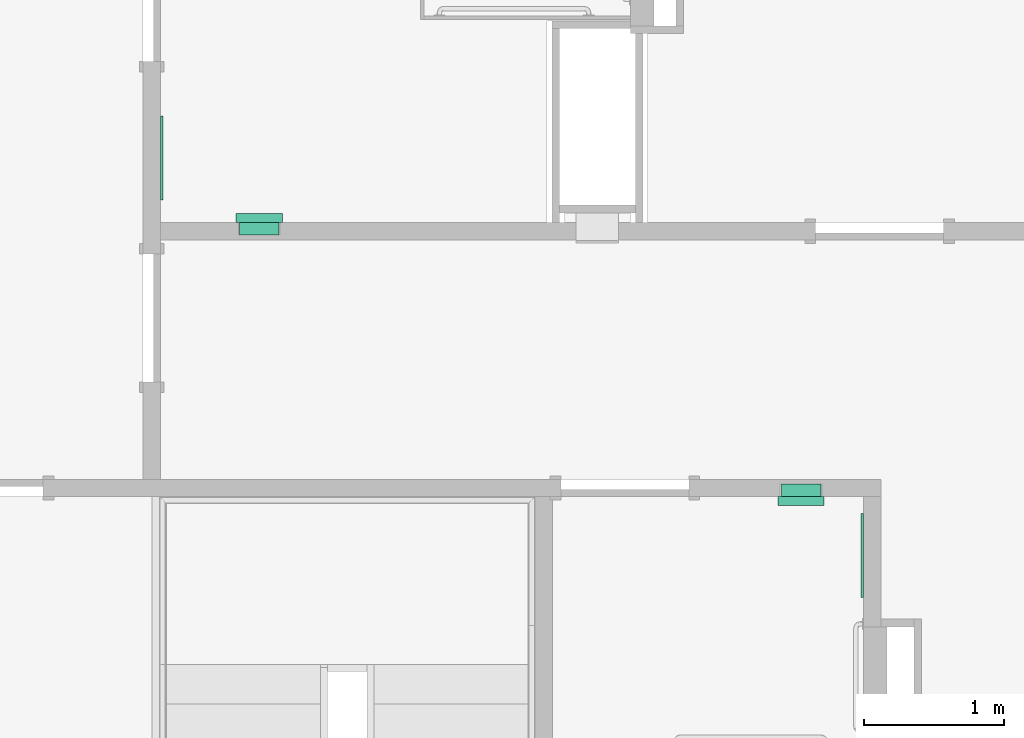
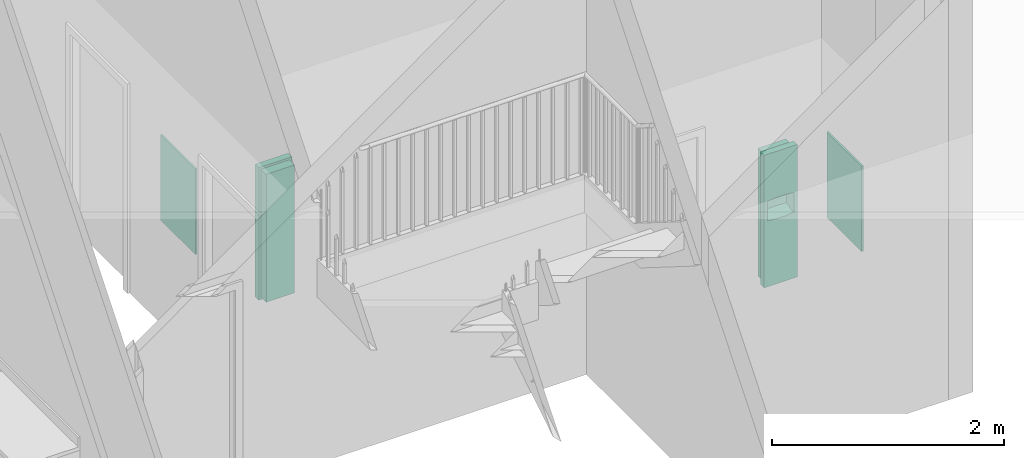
# One storey, part 65 of 87: 4 flow terminals.
"""IFC2X3 building model written with IfcOpenShell, lengths in metres."""

from ifc_helpers import new_model, entity, si_unit, converted_unit, frame, origin, origin_2d_with_axis, place, context, project, spatial, rectangle, extrude, face_set, surface_model, source, transform, mapped, type_object, type_shapes, element, save


model = new_model("IFC2X3")

# Units and contexts
model_context = context("Model", 3, precision=1e-09, world=origin())
plan_context = context("Plan", 3, precision=1e-09, world=origin())
ifc_project = project(units=[si_unit("LENGTHUNIT", "METRE"), si_unit("AREAUNIT", "SQUARE_METRE"), si_unit("VOLUMEUNIT", "CUBIC_METRE"), converted_unit("PLANEANGLEUNIT", "DEGREE", entity("IfcRatioMeasure", 0.01745329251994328), si_unit("PLANEANGLEUNIT", "RADIAN"), dimensions=[0, 0, 0, 0, 0, 0, 0]), si_unit("TIMEUNIT", "SECOND")], contexts=[model_context, plan_context])

# Site, building, storey, space
site_placement = place(None, origin())
site = spatial("IfcSite", under=ifc_project, at=site_placement, Name="Default", CompositionType="ELEMENT")
building_placement = place(site_placement, origin())
building = spatial("IfcBuilding", under=site, at=building_placement, CompositionType="ELEMENT")
storey_placement = place(building_placement, origin())
storey = spatial("IfcBuildingStorey", under=building, at=storey_placement, Name="First Floor", CompositionType="ELEMENT", Elevation=-3.531500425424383e-13)
space_1_placement = place(storey_placement, origin())
space_1 = spatial("IfcSpace", under=storey, at=space_1_placement, Name="1A12", CompositionType="ELEMENT", InteriorOrExteriorSpace="INTERNAL")

# Flow terminal
sanitary_terminal_type_1 = type_object("IfcSanitaryTerminalType", Name="Mirror 600mm x 900mm", PredefinedType="NOTDEFINED")
shared_shape_1 = source(origin(), model_context, "Body", "SweptSolid", [
    extrude(rectangle(XDim=0.01905, YDim=0.5999999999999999, at=origin_2d_with_axis()), frame((0.02447030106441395, 0.071525, 1.0), z_axis=(0.0, 0.0, 1.0), x_axis=(0.0, -1.0, 0.0)), (0.0, 0.0, 1.0), 0.8999999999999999),
])
type_shapes(sanitary_terminal_type_1, [shared_shape_1])
flow_terminal_1_placement = place(space_1_placement, frame((-18.0580000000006, 44.59847030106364, -0.08500000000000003), z_axis=(0.0, 0.0, 1.0), x_axis=(0.0, -1.0, 0.0)))
element("IfcFlowTerminal", 1, at=flow_terminal_1_placement, inside=space_1, type_object=sanitary_terminal_type_1, Name="M_Mirror:Mirror 600mm x 900mm:Mirror 600mm x 900mm", ObjectType="Mirror 600mm x 900mm", context=model_context, shape_type="MappedRepresentation", body=[
    mapped(shared_shape_1, transform((0.0, 0.0, 0.0), scale=1.0)),
])

# Space
space_2_placement = place(storey_placement, origin())
space_2 = spatial("IfcSpace", under=storey, at=space_2_placement, Name="1A13", CompositionType="ELEMENT", InteriorOrExteriorSpace="INTERNAL")

# Flow terminals
flow_terminal_2_placement = place(space_2_placement, frame((-12.91200000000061, 41.71153039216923, -0.08500000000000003), z_axis=(0.0, 0.0, 1.0), x_axis=(0.0, 1.0, 0.0)))
element("IfcFlowTerminal", 2, at=flow_terminal_2_placement, inside=space_2, type_object=sanitary_terminal_type_1, Name="M_Mirror:Mirror 600mm x 900mm:Mirror 600mm x 900mm", ObjectType="Mirror 600mm x 900mm", context=model_context, shape_type="MappedRepresentation", body=[
    mapped(shared_shape_1, transform((0.0, 0.0, 0.0), scale=1.0)),
])
sanitary_terminal_type_2 = type_object("IfcSanitaryTerminalType", Name="Semi-Recessed", PredefinedType="NOTDEFINED")
shared_shape_2 = source(origin(), model_context, "Body", "SurfaceModel", [
    surface_model("IfcFaceBasedSurfaceModel", [(0.3047999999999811, 1.371600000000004, 0.006350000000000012), (0.02539999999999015, 1.371600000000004, 0.006350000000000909), (0.02539999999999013, 0.02540000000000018, 0.006350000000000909), (0.3047999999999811, 0.02540000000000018, 0.006350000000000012), (0.3047999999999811, 1.371600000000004, 0.0), (0.02539999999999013, 1.371600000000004, 0.0), (0.02539999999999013, 0.02540000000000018, 0.0), (0.3047999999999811, 0.02540000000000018, 0.0), (0.3047999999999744, 0.8683625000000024, 0.0314087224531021), (0.304799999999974, 0.8683625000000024, 0.0), (0.304799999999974, 1.371600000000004, 0.0), (0.3047999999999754, 1.371600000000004, 0.1396999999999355), (0.3047999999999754, 0.9274310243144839, 0.139699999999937), (0.3047999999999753, 0.9028355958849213, 0.1191121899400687), (0.304799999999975, 0.8840898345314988, 0.09308548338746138), (0.3047999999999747, 0.8723562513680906, 0.06323391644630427), (0.02539999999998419, 0.8683625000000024, 0.03140872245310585), (0.02539999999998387, 0.8683625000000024, 0.0), (0.02539999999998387, 1.371600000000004, 0.0), (0.02539999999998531, 1.371600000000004, 0.1396999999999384), (0.02539999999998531, 0.9274310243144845, 0.1396999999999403), (0.02539999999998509, 0.9028355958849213, 0.1191121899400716), (0.02539999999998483, 0.8840898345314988, 0.09308548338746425), (0.02539999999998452, 0.8723562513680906, 0.06323391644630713), (0.1650999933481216, 0.8971245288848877, 0.1125374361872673), (0.244423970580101, 0.8850007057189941, 0.0947267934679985), (0.3048000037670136, 0.8934627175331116, 0.1060988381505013), (0.225727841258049, 0.8897196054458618, 0.1024402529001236), (0.1240624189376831, 0.8936511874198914, 0.1080563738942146), (0.1443802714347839, 0.89626145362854, 0.1114614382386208), (0.02539999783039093, 0.8934627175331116, 0.1060988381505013), (0.2975995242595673, 0.8728225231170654, 0.06500939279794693), (0.2961554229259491, 0.8724397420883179, 0.06352298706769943), (0.08576729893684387, 0.8849983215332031, 0.09472260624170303), (0.05923719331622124, 0.8781034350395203, 0.0805450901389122), (0.06810294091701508, 0.8800443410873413, 0.08500713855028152), (0.02539999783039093, 0.8811564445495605, 0.08562259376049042), (0.03954862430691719, 0.8766331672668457, 0.07681932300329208), (0.04958875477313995, 0.8769928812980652, 0.07776296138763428), (0.02539999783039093, 0.8782230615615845, 0.07815969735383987), (0.03264534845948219, 0.875198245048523, 0.07281118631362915), (0.02539999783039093, 0.8767563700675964, 0.0744282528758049), (0.02539999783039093, 0.87602299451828, 0.07256253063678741), (0.2946777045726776, 0.8762261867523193, 0.07572414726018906), (0.3048000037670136, 0.8767563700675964, 0.0744282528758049), (0.3048000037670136, 0.8774896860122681, 0.07629397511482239), (0.2906513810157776, 0.8717893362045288, 0.0609215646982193), (0.3048000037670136, 0.871357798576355, 0.05527761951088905), (0.3048000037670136, 0.8718570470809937, 0.05925576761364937), (0.02539999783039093, 0.874556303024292, 0.06883108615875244), (0.03170676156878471, 0.8735430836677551, 0.0675705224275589), (0.03171554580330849, 0.8739543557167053, 0.06892137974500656), (0.104461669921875, 0.889717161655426, 0.1024366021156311), (0.02539999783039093, 0.8752896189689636, 0.07069680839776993), (0.03172433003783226, 0.8743656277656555, 0.07027223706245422), (0.03218483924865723, 0.8747819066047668, 0.07154171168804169), (0.185808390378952, 0.8962624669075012, 0.1114626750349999), (0.3048000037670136, 0.8703593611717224, 0.04732131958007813), (0.2280749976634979, 0.8709259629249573, 0.05697767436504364), (0.2061262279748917, 0.8936530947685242, 0.1080589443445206), (0.3048000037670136, 0.8752896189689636, 0.07069680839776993), (0.297547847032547, 0.8752022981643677, 0.07282306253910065), (0.2980738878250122, 0.8745774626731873, 0.0708826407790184), (0.2985999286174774, 0.8739525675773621, 0.06894221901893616), (0.3048000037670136, 0.874556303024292, 0.06883108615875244), (0.2709419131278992, 0.8781068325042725, 0.08055329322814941), (0.3048000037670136, 0.8811564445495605, 0.08562259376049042), (0.2620970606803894, 0.8800443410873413, 0.08500713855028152), (0.2805894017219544, 0.8769944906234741, 0.07776710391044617), (0.3048000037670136, 0.8782230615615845, 0.07815969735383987), (0.03435983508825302, 0.8722586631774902, 0.06284872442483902), (0.02539999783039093, 0.872106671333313, 0.06124484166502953), (0.0367727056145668, 0.8719081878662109, 0.06142202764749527), (0.2906513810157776, 0.8766331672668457, 0.07681932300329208), (0.02539999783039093, 0.8718570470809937, 0.05925576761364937), (0.3048000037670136, 0.8738229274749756, 0.06696536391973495), (0.2980997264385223, 0.8733875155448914, 0.06697580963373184), (0.3048000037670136, 0.872106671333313, 0.06124484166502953), (0.2947112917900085, 0.8720570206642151, 0.06203658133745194), (0.02539999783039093, 0.8738229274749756, 0.06696536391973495), (0.3048000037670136, 0.873089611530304, 0.06509964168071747), (0.02539999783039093, 0.8774896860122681, 0.07629397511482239), (0.03438528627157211, 0.8759323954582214, 0.07491400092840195), (0.03677724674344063, 0.8764464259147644, 0.07632055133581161), (0.03261014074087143, 0.8728178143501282, 0.0649920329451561), (0.02539999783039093, 0.8703593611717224, 0.04732131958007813), (0.1650999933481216, 0.8683624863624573, 0.03140872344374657), (0.03954862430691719, 0.8717893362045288, 0.0609215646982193), (0.1021250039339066, 0.8709259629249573, 0.05697767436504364), (0.02539999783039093, 0.871357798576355, 0.05527761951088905), (0.02539999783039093, 0.873089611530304, 0.06509964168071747), (0.2961127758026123, 0.8757142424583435, 0.07427360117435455), (0.3048000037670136, 0.87602299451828, 0.07256253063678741), (0.1650999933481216, 0.8701865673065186, 0.05300865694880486), (0.03954862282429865, 0.9617593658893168, 0.06092156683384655), (0.1650999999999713, 0.9617593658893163, 0.05300865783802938), (0.2906513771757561, 0.9617593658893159, 0.06092156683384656), (0.2927086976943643, 0.9617593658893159, 0.06119241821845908), (0.2946258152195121, 0.9617593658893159, 0.06198651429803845), (0.2962720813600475, 0.9617593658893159, 0.06324973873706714), (0.2975353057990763, 0.9617593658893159, 0.06489600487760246), (0.2983294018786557, 0.9617593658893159, 0.06681312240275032), (0.2986002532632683, 0.9617593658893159, 0.06887044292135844), (0.2983294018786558, 0.9617593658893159, 0.07092776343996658), (0.2975353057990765, 0.9617593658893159, 0.0728448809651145), (0.2962720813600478, 0.9617593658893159, 0.07449114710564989), (0.2946258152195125, 0.9617593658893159, 0.07575437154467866), (0.2927086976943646, 0.9617593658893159, 0.07654846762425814), (0.2906513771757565, 0.9617593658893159, 0.07681931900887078), (0.2806776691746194, 0.9617593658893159, 0.07775040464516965), (0.2710486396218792, 0.9617593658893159, 0.0805114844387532), (0.2620970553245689, 0.9617593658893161, 0.0850071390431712), (0.2316919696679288, 0.9617593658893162, 0.1002429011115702), (0.1989754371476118, 0.9617593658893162, 0.1095287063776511), (0.1651000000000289, 0.9617593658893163, 0.1125374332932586), (0.1312245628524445, 0.9617593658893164, 0.109528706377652), (0.09850803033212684, 0.9617593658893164, 0.1002429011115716), (0.06810294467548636, 0.9617593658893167, 0.08500713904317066), (0.05915136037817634, 0.9617593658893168, 0.08051148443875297), (0.04952233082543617, 0.9617593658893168, 0.07775040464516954), (0.03954862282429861, 0.9617593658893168, 0.07681931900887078), (0.03749130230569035, 0.9617593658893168, 0.0765484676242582), (0.03557418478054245, 0.9617593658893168, 0.07575437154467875), (0.03392791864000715, 0.9617593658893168, 0.07449114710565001), (0.03266469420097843, 0.9617593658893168, 0.07284488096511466), (0.03187059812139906, 0.9617593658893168, 0.07092776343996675), (0.03159974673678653, 0.9617593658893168, 0.06887044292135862), (0.03187059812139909, 0.9617593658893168, 0.06681312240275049), (0.03266469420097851, 0.9617593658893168, 0.0648960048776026), (0.03392791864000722, 0.9617593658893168, 0.06324973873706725), (0.03557418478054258, 0.9617593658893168, 0.06198651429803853), (0.03749130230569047, 0.9617593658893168, 0.06119241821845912), (0.3302000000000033, 1.397000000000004, 0.1523999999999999), (0.0, 1.397000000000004, 0.152400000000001), (0.0, 0.0, 0.152400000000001), (0.3302000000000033, 0.0, 0.1523999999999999), (0.03175000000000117, 0.7016793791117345, 0.1524000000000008), (0.03175000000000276, 0.8960819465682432, 0.1524000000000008), (0.03192255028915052, 0.8975521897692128, 0.1524000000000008), (0.03243082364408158, 0.8989425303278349, 0.1524000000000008), (0.03324719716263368, 0.9001774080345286, 0.1524000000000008), (0.03432730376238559, 0.9011897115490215, 0.1524000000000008), (0.03561244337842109, 0.9019244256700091, 0.1524000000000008), (0.03703277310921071, 0.9023416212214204, 0.1524000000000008), (0.1222300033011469, 0.9119737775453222, 0.1524000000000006), (0.2079699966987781, 0.911973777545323, 0.1524000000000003), (0.2931672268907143, 0.902341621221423, 0.1524), (0.2945875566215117, 0.9019244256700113, 0.1524), (0.2958726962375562, 0.9011897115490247, 0.1524), (0.2969528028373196, 0.9001774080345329, 0.1524), (0.297769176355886, 0.8989425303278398, 0.1524), (0.2982774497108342, 0.8975521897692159, 0.1524), (0.2984500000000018, 0.8960819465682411, 0.1524), (0.2984500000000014, 0.7016793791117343, 0.1524), (0.2982774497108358, 0.7002091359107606, 0.1524), (0.2977691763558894, 0.6988187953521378, 0.1524), (0.2969528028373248, 0.697583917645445, 0.1524), (0.2958726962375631, 0.6965716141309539, 0.1524), (0.29458755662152, 0.6958369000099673, 0.1524), (0.2931672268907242, 0.6954197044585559, 0.1524), (0.2079699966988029, 0.6857875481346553, 0.1524000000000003), (0.1222300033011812, 0.6857875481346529, 0.1524000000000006), (0.03703277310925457, 0.6954197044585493, 0.1524000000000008), (0.03561244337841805, 0.6958369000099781, 0.1524000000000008), (0.0343273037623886, 0.6965716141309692, 0.1524000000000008), (0.03324719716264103, 0.6975839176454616, 0.1524000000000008), (0.03243082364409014, 0.698818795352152, 0.1524000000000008), (0.03192255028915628, 0.7002091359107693, 0.1524000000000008), (0.3063874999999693, 1.373187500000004, 0.0), (0.02381249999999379, 1.373187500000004, 0.0), (0.02381249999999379, 0.02381250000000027, 0.0), (0.3063874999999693, 0.02381250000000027, 0.0), (0.3047999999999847, 1.371600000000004, 0.0), (0.3047999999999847, 0.02540000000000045, 0.0), (0.02539999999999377, 0.02540000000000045, 0.0), (0.02539999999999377, 1.371600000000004, 0.0), (0.304799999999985, 1.371600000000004, 0.08889999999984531), (0.3047999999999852, 1.371600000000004, 0.1396999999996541), (0.3047999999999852, 0.02540000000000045, 0.1396999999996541), (0.304799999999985, 0.02540000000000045, 0.08889999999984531), (0.02539999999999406, 0.02540000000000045, 0.08889999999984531), (0.02539999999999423, 0.02540000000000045, 0.139699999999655), (0.02539999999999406, 1.371600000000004, 0.08889999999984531), (0.02539999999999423, 1.371600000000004, 0.139699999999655), (0.02381249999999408, 1.373187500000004, 0.08889999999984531), (0.3063874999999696, 1.373187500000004, 0.08889999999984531), (0.02381249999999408, 0.02381250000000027, 0.08889999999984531), (0.3063874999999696, 0.02381250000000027, 0.08889999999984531), (0.3302000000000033, 1.397000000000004, 0.08889999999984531), (0.0, 1.397000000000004, 0.08889999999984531), (0.0, 0.0, 0.08889999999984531), (0.3302000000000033, 0.0, 0.08889999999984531), (0.3302000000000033, 1.397000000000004, 0.1396999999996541), (0.0, 1.397000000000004, 0.1396999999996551), (0.0, 0.0, 0.1396999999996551), (0.3302000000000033, 0.0, 0.1396999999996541), (0.0317500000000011, 0.7016793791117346, 0.139699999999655), (0.03175000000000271, 0.8960819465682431, 0.139699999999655), (0.03192255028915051, 0.8975521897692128, 0.139699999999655), (0.03243082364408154, 0.8989425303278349, 0.139699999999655), (0.03324719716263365, 0.9001774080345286, 0.139699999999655), (0.03432730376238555, 0.9011897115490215, 0.139699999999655), (0.03561244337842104, 0.9019244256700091, 0.139699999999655), (0.03703277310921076, 0.9023416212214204, 0.139699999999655), (0.1222300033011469, 0.9119737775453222, 0.1396999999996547), (0.207969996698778, 0.911973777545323, 0.1396999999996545), (0.2931672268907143, 0.902341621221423, 0.1396999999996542), (0.2945875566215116, 0.9019244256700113, 0.1396999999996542), (0.2958726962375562, 0.9011897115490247, 0.1396999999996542), (0.2969528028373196, 0.9001774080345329, 0.1396999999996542), (0.2977691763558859, 0.8989425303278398, 0.1396999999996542), (0.2982774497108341, 0.8975521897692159, 0.1396999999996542), (0.2984500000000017, 0.8960819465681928, 0.1396999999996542), (0.2984500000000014, 0.7016793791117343, 0.1396999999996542), (0.2982774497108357, 0.7002091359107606, 0.1396999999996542), (0.2977691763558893, 0.6988187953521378, 0.1396999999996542), (0.2969528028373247, 0.697583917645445, 0.1396999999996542), (0.295872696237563, 0.6965716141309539, 0.1396999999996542), (0.29458755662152, 0.6958369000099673, 0.1396999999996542), (0.2931672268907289, 0.6954197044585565, 0.1396999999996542), (0.2079699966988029, 0.6857875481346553, 0.1396999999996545), (0.1222300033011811, 0.6857875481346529, 0.1396999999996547), (0.0370327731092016, 0.6954197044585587, 0.139699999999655), (0.03561244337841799, 0.6958369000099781, 0.139699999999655), (0.03432730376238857, 0.6965716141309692, 0.139699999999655), (0.03324719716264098, 0.6975839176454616, 0.139699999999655), (0.03243082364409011, 0.698818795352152, 0.139699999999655), (0.03192255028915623, 0.7002091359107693, 0.139699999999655), (0.02698749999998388, 0.6774923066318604, 0.1206361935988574), (0.02698749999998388, 0.6858000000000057, 0.1206361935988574), (0.02698749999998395, 0.6858000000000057, 0.1397000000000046), (0.02698749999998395, 0.0253999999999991, 0.1397000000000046), (0.02698749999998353, 0.0253999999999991, 0.007937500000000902), (0.02698749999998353, 0.7076898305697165, 0.007937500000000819), (0.3032124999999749, 0.6774923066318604, 0.1206361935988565), (0.3032124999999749, 0.6858000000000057, 0.1206361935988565), (0.3032124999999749, 0.6858000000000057, 0.1397000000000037), (0.3032124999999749, 0.0253999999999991, 0.1397000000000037), (0.3032124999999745, 0.0253999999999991, 0.007937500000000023), (0.3032124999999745, 0.7076898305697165, 0.007937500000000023)], [face_set([[[0, 1, 2, 3]], [[4, 5, 6, 7]], [[1, 0, 4, 5]], [[2, 6, 5, 1]], [[3, 7, 6, 2]], [[0, 3, 7, 4]]]), face_set([[[8, 9, 10, 11, 12, 13, 14, 15]], [[16, 17, 18, 19, 20, 21, 22, 23]], [[9, 8, 16, 17]], [[10, 18, 17, 9]], [[11, 19, 18, 10]], [[12, 11, 19, 20]], [[24, 20, 21]], [[25, 26, 27]], [[28, 29, 21]], [[28, 21, 30]], [[15, 31, 32]], [[22, 33, 30]], [[24, 21, 29]], [[34, 35, 36]], [[37, 38, 39]], [[40, 41, 42]], [[39, 38, 34]], [[22, 35, 33]], [[39, 34, 36]], [[43, 44, 45]], [[46, 47, 48]], [[49, 50, 51]], [[33, 52, 30]], [[53, 54, 55]], [[24, 56, 13]], [[57, 47, 58]], [[24, 13, 12]], [[13, 56, 59]], [[59, 27, 26]], [[60, 61, 62]], [[62, 63, 64]], [[24, 12, 20]], [[55, 42, 53]], [[65, 66, 67]], [[25, 67, 14]], [[25, 14, 26]], [[65, 68, 69]], [[66, 65, 69]], [[70, 71, 72]], [[69, 68, 73]], [[72, 71, 74]], [[26, 13, 59]], [[54, 53, 49]], [[64, 60, 62]], [[75, 63, 76]], [[46, 77, 78]], [[79, 50, 49]], [[80, 76, 31]], [[39, 81, 37]], [[41, 82, 81]], [[49, 51, 54]], [[81, 82, 83]], [[40, 82, 41]], [[70, 84, 23]], [[84, 50, 79]], [[85, 16, 86]], [[28, 30, 52]], [[70, 23, 71]], [[87, 72, 74]], [[85, 88, 89]], [[87, 89, 88]], [[74, 89, 87]], [[84, 90, 23]], [[58, 47, 46]], [[35, 22, 36]], [[63, 75, 64]], [[91, 61, 92]], [[45, 73, 43]], [[80, 75, 76]], [[61, 60, 92]], [[15, 32, 78]], [[45, 69, 73]], [[92, 44, 91]], [[66, 14, 67]], [[84, 79, 90]], [[85, 93, 88]], [[86, 57, 93]], [[31, 15, 80]], [[77, 15, 78]], [[42, 55, 40]], [[58, 93, 57]], [[77, 46, 48]], [[8, 57, 86]], [[37, 81, 83]], [[44, 43, 91]], [[85, 86, 93]], [[94, 95, 96, 97, 98, 99, 100, 101, 102, 103, 104, 105, 106, 107, 108, 109, 110, 111, 112, 113, 114, 115, 116, 117, 118, 119, 120, 121, 122, 123, 124, 125, 126, 127, 128, 129, 130, 131]], [[95, 94, 87, 88, 93]], [[96, 95, 93, 58, 46]], [[46, 96, 97]], [[78, 98, 99]], [[97, 98, 78]], [[99, 100, 31]], [[46, 97, 78]], [[63, 31, 101]], [[31, 78, 99]], [[63, 101, 102]], [[101, 31, 100]], [[61, 104, 105]], [[43, 106, 107]], [[105, 106, 43]], [[73, 107, 108]], [[63, 103, 61]], [[103, 63, 102]], [[61, 103, 104]], [[61, 105, 43]], [[107, 73, 43]], [[108, 68, 73]], [[68, 108, 109]], [[109, 65, 68]], [[110, 67, 65]], [[67, 110, 111]], [[109, 110, 65]], [[111, 112, 25]], [[25, 67, 111]], [[27, 25, 112]], [[112, 59, 27]], [[113, 114, 56]], [[56, 59, 113]], [[24, 56, 114]], [[113, 59, 112]], [[114, 115, 29]], [[29, 24, 114]], [[28, 29, 115]], [[115, 116, 28]], [[116, 117, 33]], [[33, 52, 116]], [[35, 33, 117]], [[116, 52, 28]], [[118, 34, 35]], [[35, 117, 118]], [[118, 119, 34]], [[120, 37, 38]], [[38, 119, 120]], [[34, 119, 38]], [[37, 120, 121]], [[82, 122, 123]], [[121, 122, 83]], [[123, 124, 40]], [[37, 121, 83]], [[83, 122, 82]], [[40, 125, 54]], [[40, 82, 123]], [[54, 125, 126]], [[40, 124, 125]], [[84, 127, 128]], [[129, 84, 128]], [[72, 130, 131]], [[129, 130, 70]], [[87, 131, 94]], [[127, 50, 126]], [[127, 84, 50]], [[126, 50, 54]], [[70, 84, 129]], [[130, 72, 70]], [[131, 87, 72]]]), face_set([[[132, 133, 134, 135], [136, 137, 138, 139, 140, 141, 142, 143, 144, 145, 146, 147, 148, 149, 150, 151, 152, 153, 154, 155, 156, 157, 158, 159, 160, 161, 162, 163, 164, 165, 166, 167]], [[168, 169, 170, 171], [172, 173, 174, 175]], [[172, 176, 177, 178, 179, 173]], [[173, 174, 180, 181, 178, 179]], [[174, 175, 182, 183, 181, 180]], [[175, 182, 183, 177, 176, 172]], [[168, 169, 184, 185]], [[169, 184, 186, 170]], [[170, 186, 187, 171]], [[171, 168, 185, 187]], [[188, 189, 190, 191], [185, 187, 186, 184]], [[133, 132, 192, 188, 189, 193]], [[134, 133, 193, 189, 190, 194]], [[135, 134, 194, 190, 191, 195]], [[132, 135, 195, 191, 188, 192]], [[177, 183, 181, 178], [196, 197, 198, 199, 200, 201, 202, 203, 204, 205, 206, 207, 208, 209, 210, 211, 212, 213, 214, 215, 216, 217, 218, 219, 220, 221, 222, 223, 224, 225, 226, 227]], [[137, 136, 196, 197]], [[198, 197, 137, 138]], [[199, 198, 138, 139]], [[139, 140, 200, 199]], [[202, 201, 141, 142]], [[203, 202, 142, 143]], [[140, 141, 201, 200]], [[203, 143, 144, 204]], [[145, 205, 204, 144]], [[205, 145, 146, 206]], [[207, 206, 146, 147]], [[208, 207, 147, 148]], [[148, 149, 209, 208]], [[212, 211, 151, 152]], [[211, 210, 150, 151]], [[149, 150, 210, 209]], [[153, 213, 212, 152]], [[214, 213, 153, 154]], [[215, 214, 154, 155]], [[155, 156, 216, 215]], [[218, 217, 157, 158]], [[219, 218, 158, 159]], [[156, 157, 217, 216]], [[219, 159, 160, 220]], [[161, 221, 220, 160]], [[221, 161, 162, 222]], [[223, 222, 162, 163]], [[224, 223, 163, 164]], [[164, 165, 225, 224]], [[227, 226, 166, 167]], [[196, 227, 167, 136]], [[165, 166, 226, 225]]]), face_set([[[228, 229, 230, 231, 232, 233]], [[234, 235, 236, 237, 238, 239]], [[233, 228, 234, 239]], [[232, 238, 239, 233]], [[231, 237, 238, 232]], [[230, 231, 237, 236]], [[229, 230, 236, 235]], [[228, 234, 235, 229]]])]),
])
type_shapes(sanitary_terminal_type_2, [shared_shape_2])
flow_terminal_3_placement = place(space_1_placement, frame((-17.12580000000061, 44.02509999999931, 0.3428999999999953), z_axis=(0.0, 1.0, 0.0), x_axis=(-1.0, 0.0, 0.0)))
element("IfcFlowTerminal", 3, at=flow_terminal_3_placement, inside=space_1, type_object=sanitary_terminal_type_2, Name="M_Towel Dispensers - receptical:Semi-Recessed:Semi-Recessed", ObjectType="Semi-Recessed", context=model_context, shape_type="MappedRepresentation", body=[
    mapped(shared_shape_2, transform((0.0, 0.0, 0.0), scale=1.0)),
])
flow_terminal_4_placement = place(space_2_placement, frame((-13.5842000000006, 42.24490069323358, 0.3428999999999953), z_axis=(0.0, -1.0, 0.0), x_axis=(1.0, 0.0, 0.0)))
element("IfcFlowTerminal", 4, at=flow_terminal_4_placement, inside=space_2, type_object=sanitary_terminal_type_2, Name="M_Towel Dispensers - receptical:Semi-Recessed:Semi-Recessed", ObjectType="Semi-Recessed", context=model_context, shape_type="MappedRepresentation", body=[
    mapped(shared_shape_2, transform((0.0, 0.0, 0.0), scale=1.0)),
])

save(model, "model.ifc")
